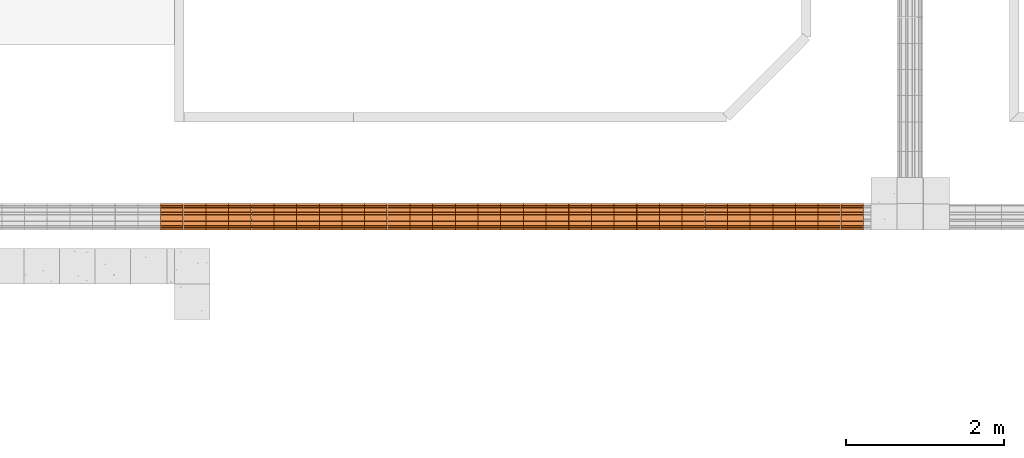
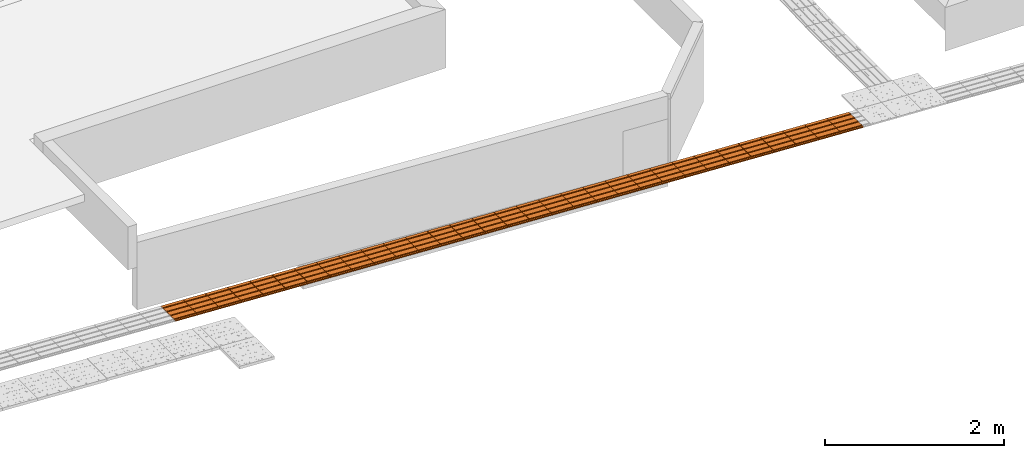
# One storey, part 191 of 237: 31 proxies.
"""IFC2X3 building model written with IfcOpenShell, lengths in millimetres."""

from ifc_helpers import new_model, entity, si_unit, converted_unit, derived_unit, money_unit, direction, frame, origin_with_axes, place, context, subcontext, project, spatial, open_shell, surface_model, source, transform, mapped, type_object, element, save


model = new_model("IFC2X3")

# Units and contexts
model_context = context("Model", 3, precision=0.01, world=origin_with_axes(), true_north=direction((0.0, 1.0)))
body_context = subcontext(model_context, "Body", "Model", "MODEL_VIEW")
ifc_project = project(units=[si_unit("LENGTHUNIT", "METRE", prefix="MILLI"), si_unit("AREAUNIT", "SQUARE_METRE"), si_unit("VOLUMEUNIT", "CUBIC_METRE"), converted_unit("PLANEANGLEUNIT", "DEGREE", entity("IfcPlaneAngleMeasure", 0.0174532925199), si_unit("PLANEANGLEUNIT", "RADIAN"), dimensions=[0, 0, 0, 0, 0, 0, 0]), money_unit("USD"), converted_unit("TIMEUNIT", "Year", entity("IfcTimeMeasure", 31556926.0), si_unit("TIMEUNIT", "SECOND"), dimensions=[0, 0, 1, 0, 0, 0, 0]), si_unit("MASSUNIT", "GRAM", prefix="KILO"), si_unit("THERMODYNAMICTEMPERATUREUNIT", "DEGREE_CELSIUS"), si_unit("LUMINOUSINTENSITYUNIT", "LUMEN"), si_unit("ENERGYUNIT", "JOULE", prefix="MEGA"), derived_unit("THERMALCONDUCTANCEUNIT", [(si_unit("POWERUNIT", "WATT"), 1), (si_unit("LENGTHUNIT", "METRE"), -1), (si_unit("THERMODYNAMICTEMPERATUREUNIT", "KELVIN"), -1)]), derived_unit("SPECIFICHEATCAPACITYUNIT", [(si_unit("ENERGYUNIT", "JOULE"), 1), (si_unit("MASSUNIT", "GRAM", prefix="KILO"), -1), (si_unit("THERMODYNAMICTEMPERATUREUNIT", "KELVIN"), -1)]), derived_unit("MASSDENSITYUNIT", [(si_unit("MASSUNIT", "GRAM", prefix="KILO"), 1), (si_unit("VOLUMEUNIT", "CUBIC_METRE"), -1)])], contexts=[model_context])

# Site, building, storey
site_placement = place(None, origin_with_axes())
site = spatial("IfcSite", under=ifc_project, at=site_placement, Name="Local", CompositionType="ELEMENT")
building_placement = place(site_placement, origin_with_axes())
building = spatial("IfcBuilding", under=site, at=building_placement, Name="Construção", CompositionType="ELEMENT")
storey_placement = place(building_placement, origin_with_axes())
storey = spatial("IfcBuildingStorey", under=building, at=storey_placement, Name="Pavimento Térreo", CompositionType="ELEMENT", Elevation=0.0)

# Proxies
building_element_proxy_type = type_object("IfcBuildingElementProxyType", Name="Piso Direcional 27", PredefinedType="NOTDEFINED")
shared_shape = source(origin_with_axes(), body_context, "Body", "SurfaceModel", [
    surface_model("IfcShellBasedSurfaceModel", [(-0.210134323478, -47.258225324, 4.02303628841), (285.108160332, -47.258225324, 18.9260007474), (284.760415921, -41.665004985, 25.5835917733), (-0.557878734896, -41.665004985, 10.6806273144)], [open_shell([[[0, 1, 2, 3]]])]),
    surface_model("IfcShellBasedSurfaceModel", [(285.803649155, -153.529411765, 5.61081869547), (285.803649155, 176.470588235, 5.61081869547), (285.108160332, 176.470588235, 18.9260007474), (285.108160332, 154.097706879, 18.9260007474), (284.760415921, 148.50448654, 25.5835917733), (284.760415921, 126.131605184, 25.5835917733), (285.108160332, 120.538384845, 18.9260007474), (285.108160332, 70.1994017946, 18.9260007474), (284.760415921, 64.6061814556, 25.5835917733), (284.760415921, 42.2333000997, 25.5835917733), (285.108160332, 36.6400797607, 18.9260007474), (285.108160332, -13.6989032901, 18.9260007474), (284.760415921, -19.2921236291, 25.5835917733), (284.760415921, -41.665004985, 25.5835917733), (285.108160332, -47.258225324, 18.9260007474), (285.108160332, -97.5972083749, 18.9260007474), (284.760415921, -103.190428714, 25.5835917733), (284.760415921, -125.56331007, 25.5835917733), (285.108160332, -131.156530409, 18.9260007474), (285.108160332, -153.529411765, 18.9260007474)], [open_shell([[[0, 1, 2, 3, 4, 5, 6, 7, 8, 9, 10, 11, 12, 13, 14, 15, 16, 17, 18, 19]]])]),
    surface_model("IfcShellBasedSurfaceModel", [(-0.557878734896, -19.2921236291, 10.6806273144), (284.760415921, -19.2921236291, 25.5835917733), (285.108160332, -13.6989032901, 18.9260007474), (-0.210134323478, -13.6989032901, 4.02303628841)], [open_shell([[[0, 1, 2, 3]]])]),
    surface_model("IfcShellBasedSurfaceModel", [(-0.557878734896, -103.190428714, 10.6806273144), (284.760415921, -103.190428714, 25.5835917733), (285.108160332, -97.5972083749, 18.9260007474), (-0.210134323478, -97.5972083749, 4.02303628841)], [open_shell([[[0, 1, 2, 3]]])]),
    surface_model("IfcShellBasedSurfaceModel", [(-0.557878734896, 64.6061814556, 10.6806273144), (284.760415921, 64.6061814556, 25.5835917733), (285.108160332, 70.1994017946, 18.9260007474), (-0.210134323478, 70.1994017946, 4.02303628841)], [open_shell([[[0, 1, 2, 3]]])]),
    surface_model("IfcShellBasedSurfaceModel", [(-0.210134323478, 36.6400797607, 4.02303628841), (285.108160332, 36.6400797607, 18.9260007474), (284.760415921, 42.2333000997, 25.5835917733), (-0.557878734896, 42.2333000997, 10.6806273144)], [open_shell([[[0, 1, 2, 3]]])]),
    surface_model("IfcShellBasedSurfaceModel", [(-0.210134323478, -131.156530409, 4.02303628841), (285.108160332, -131.156530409, 18.9260007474), (284.760415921, -125.56331007, 25.5835917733), (-0.557878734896, -125.56331007, 10.6806273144)], [open_shell([[[0, 1, 2, 3]]])]),
    surface_model("IfcShellBasedSurfaceModel", [(-0.210134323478, 176.470588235, 4.02303628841), (-0.210134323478, 154.097706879, 4.02303628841), (285.108160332, 154.097706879, 18.9260007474), (285.108160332, 176.470588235, 18.9260007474)], [open_shell([[[0, 1, 2, 3]]])]),
    surface_model("IfcShellBasedSurfaceModel", [(-0.210134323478, 120.538384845, 4.02303628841), (285.108160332, 120.538384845, 18.9260007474), (284.760415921, 126.131605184, 25.5835917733), (-0.557878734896, 126.131605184, 10.6806273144)], [open_shell([[[0, 1, 2, 3]]])]),
    surface_model("IfcShellBasedSurfaceModel", [(-0.557878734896, 148.50448654, 10.6806273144), (284.760415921, 148.50448654, 25.5835917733), (285.108160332, 154.097706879, 18.9260007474), (-0.210134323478, 154.097706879, 4.02303628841)], [open_shell([[[0, 1, 2, 3]]])]),
    surface_model("IfcShellBasedSurfaceModel", [(-0.210134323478, 36.6400797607, 4.02303628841), (-0.210134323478, -13.6989032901, 4.02303628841), (285.108160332, -13.6989032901, 18.9260007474), (285.108160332, 36.6400797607, 18.9260007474)], [open_shell([[[0, 1, 2, 3]]])]),
    surface_model("IfcShellBasedSurfaceModel", [(-0.210134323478, 120.538384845, 4.02303628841), (-0.210134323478, 70.1994017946, 4.02303628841), (285.108160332, 70.1994017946, 18.9260007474), (285.108160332, 120.538384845, 18.9260007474)], [open_shell([[[0, 1, 2, 3]]])]),
    surface_model("IfcShellBasedSurfaceModel", [(-0.557878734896, 148.50448654, 10.6806273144), (-0.557878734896, 126.131605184, 10.6806273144), (284.760415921, 126.131605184, 25.5835917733), (284.760415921, 148.50448654, 25.5835917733)], [open_shell([[[0, 1, 2, 3]]])]),
    surface_model("IfcShellBasedSurfaceModel", [(-0.210134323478, 120.538384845, 4.02303628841), (-0.557878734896, 126.131605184, 10.6806273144), (-0.557878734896, 148.50448654, 10.6806273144), (-0.210134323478, 154.097706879, 4.02303628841), (-0.210134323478, 176.470588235, 4.02303628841), (0.48535449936, 176.470588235, -9.29214576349), (0.48535449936, -153.529411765, -9.29214576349), (-0.210134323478, -153.529411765, 4.02303628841), (-0.210134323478, -131.156530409, 4.02303628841), (-0.557878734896, -125.56331007, 10.6806273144), (-0.557878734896, -103.190428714, 10.6806273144), (-0.210134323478, -97.5972083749, 4.02303628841), (-0.210134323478, -47.258225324, 4.02303628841), (-0.557878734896, -41.665004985, 10.6806273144), (-0.557878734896, -19.2921236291, 10.6806273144), (-0.210134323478, -13.6989032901, 4.02303628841), (-0.210134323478, 36.6400797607, 4.02303628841), (-0.557878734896, 42.2333000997, 10.6806273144), (-0.557878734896, 64.6061814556, 10.6806273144), (-0.210134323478, 70.1994017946, 4.02303628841)], [open_shell([[[0, 1, 2, 3, 4, 5, 6, 7, 8, 9, 10, 11, 12, 13, 14, 15, 16, 17, 18, 19]]])]),
    surface_model("IfcShellBasedSurfaceModel", [(284.760415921, -41.665004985, 25.5835917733), (284.760415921, -19.2921236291, 25.5835917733), (-0.557878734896, -19.2921236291, 10.6806273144), (-0.557878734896, -41.665004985, 10.6806273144)], [open_shell([[[0, 1, 2, 3]]])]),
    surface_model("IfcShellBasedSurfaceModel", [(-0.210134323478, -47.258225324, 4.02303628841), (-0.210134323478, -97.5972083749, 4.02303628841), (285.108160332, -97.5972083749, 18.9260007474), (285.108160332, -47.258225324, 18.9260007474)], [open_shell([[[0, 1, 2, 3]]])]),
    surface_model("IfcShellBasedSurfaceModel", [(284.760415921, 42.2333000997, 25.5835917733), (284.760415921, 64.6061814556, 25.5835917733), (-0.557878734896, 64.6061814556, 10.6806273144), (-0.557878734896, 42.2333000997, 10.6806273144)], [open_shell([[[0, 1, 2, 3]]])]),
    surface_model("IfcShellBasedSurfaceModel", [(284.760415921, -125.56331007, 25.5835917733), (284.760415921, -103.190428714, 25.5835917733), (-0.557878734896, -103.190428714, 10.6806273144), (-0.557878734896, -125.56331007, 10.6806273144)], [open_shell([[[0, 1, 2, 3]]])]),
    surface_model("IfcShellBasedSurfaceModel", [(285.803649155, 176.470588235, 5.61081869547), (0.48535449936, 176.470588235, -9.29214576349), (-0.210134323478, 176.470588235, 4.02303628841), (285.108160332, 176.470588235, 18.9260007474)], [open_shell([[[0, 1, 2, 3]]])]),
    surface_model("IfcShellBasedSurfaceModel", [(285.803649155, -153.529411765, 5.61081869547), (0.48535449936, -153.529411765, -9.29214576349), (0.48535449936, 176.470588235, -9.29214576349), (285.803649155, 176.470588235, 5.61081869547)], [open_shell([[[0, 1, 2, 3]]])]),
    surface_model("IfcShellBasedSurfaceModel", [(285.108160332, -153.529411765, 18.9260007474), (285.108160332, -131.156530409, 18.9260007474), (-0.210134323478, -131.156530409, 4.02303628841), (-0.210134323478, -153.529411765, 4.02303628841)], [open_shell([[[0, 1, 2, 3]]])]),
    surface_model("IfcShellBasedSurfaceModel", [(0.48535449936, -153.529411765, -9.29214576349), (285.803649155, -153.529411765, 5.61081869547), (285.108160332, -153.529411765, 18.9260007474), (-0.210134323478, -153.529411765, 4.02303628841)], [open_shell([[[0, 1, 2, 3]]])]),
])
for number, where, z_axis, x_axis, name in (
    (1, (131331.153892, 10834.0941893, -7803.9907125), (0.0, 0.0, 1.0), (-1.0, 0.0, 0.0), "Objeto-0055"),
    (2, (134197.199327, 10834.0941893, -7953.69220044), (0.0, 0.0, 1.0), (-1.0, 0.0, 0.0), "Objeto-0055"),
    (3, (133910.594784, 10834.0941893, -7938.72205165), (0.0, 0.0, 1.0), (-1.0, 0.0, 0.0), "Objeto-0055"),
    (4, (133623.99024, 10834.0941893, -7923.75190285), (0.0, 0.0, 1.0), (-1.0, 0.0, 0.0), "Objeto-0055"),
    (5, (133337.385697, 10834.0941893, -7908.78175406), (0.0, 0.0, 1.0), (-1.0, 0.0, 0.0), "Objeto-0055"),
    (6, (133050.781153, 10834.0941893, -7893.81160526), (0.0, 0.0, 1.0), (-1.0, 0.0, 0.0), "Objeto-0055"),
    (7, (132764.17661, 10834.0941893, -7878.84145647), (0.0, 0.0, 1.0), (-1.0, 0.0, 0.0), "Objeto-0055"),
    (8, (132477.572066, 10834.0941893, -7863.87130767), (0.0, 0.0, 1.0), (-1.0, 0.0, 0.0), "Objeto-0055"),
    (9, (132190.967523, 10834.0941893, -7848.90115888), (0.0, 0.0, 1.0), (-1.0, 0.0, 0.0), "Objeto-0055"),
    (10, (131904.362979, 10834.0941893, -7833.93101008), (0.0, 0.0, 1.0), (-1.0, 0.0, 0.0), "Objeto-0055"),
    (11, (131617.758436, 10834.0941893, -7818.96086129), (0.0, 0.0, 1.0), (-1.0, 0.0, 0.0), "Objeto-0055"),
    (12, (131044.549349, 10834.0941893, -7789.0205637), (0.0, 0.0, 1.0), (-1.0, 0.0, 0.0), "Objeto-0055"),
    (13, (130757.944806, 10834.0941893, -7774.05041491), (0.0, 0.0, 1.0), (-1.0, 0.0, 0.0), "Objeto-0055"),
    (14, (129898.131175, 10834.0941893, -7729.13996852), (0.0, 0.0, 1.0), (-1.0, 0.0, 0.0), "Objeto-0055"),
    (15, (130471.340262, 10834.0941893, -7759.08026611), (0.0, 0.0, 1.0), (-1.0, 0.0, 0.0), "Objeto-0055"),
    (16, (130184.735719, 10834.0941893, -7744.11011732), (0.0, 0.0, 1.0), (-1.0, 0.0, 0.0), "Objeto-0055"),
    (17, (129611.526632, 10834.0941893, -7714.16981973), (0.0, 0.0, 1.0), (-1.0, 0.0, 0.0), "Objeto-0055"),
    (18, (129324.922088, 10834.0941893, -7699.19967093), (0.0, 0.0, 1.0), (-1.0, 0.0, 0.0), "Objeto-0055"),
    (19, (129038.317545, 10834.0941893, -7684.22952214), (0.0, 0.0, 1.0), (-1.0, 0.0, 0.0), "Objeto-0055"),
    (20, (128751.713001, 10834.0941893, -7669.25937334), (0.0, 0.0, 1.0), (-1.0, 0.0, 0.0), "Objeto-0055"),
    (21, (128466.394707, 10834.0941893, -7654.35640889), (0.0, 0.0, 1.0), (-1.0, 0.0, 0.0), "Objeto-0055"),
    (22, (128179.790163, 10834.0941893, -7639.38626009), (0.0, 0.0, 1.0), (-1.0, 0.0, 0.0), "Objeto-0055"),
    (23, (127893.18562, 10834.0941893, -7624.4161113), (0.0, 0.0, 1.0), (-1.0, 0.0, 0.0), "Objeto-0055"),
    (24, (127606.581076, 10834.0941893, -7609.4459625), (0.0, 0.0, 1.0), (-1.0, 0.0, 0.0), "Objeto-0055"),
    (25, (127319.976533, 10834.0941893, -7594.47581371), (0.0, 0.0, 1.0), (-1.0, 0.0, 0.0), "Objeto-0055"),
    (26, (127033.37199, 10834.0941893, -7579.50566491), (0.0, 0.0, 1.0), (-1.0, 0.0, 0.0), "Objeto-0055"),
    (27, (126746.767446, 10834.0941893, -7564.53551612), (0.0, 0.0, 1.0), (-1.0, 0.0, 0.0), "Objeto-0055"),
    (28, (126460.162903, 10834.0941893, -7549.56536732), (0.0, 0.0, 1.0), (-1.0, 0.0, 0.0), "Objeto-0055"),
    (29, (126173.558359, 10834.0941893, -7534.59521853), (0.0, 0.0, 1.0), (-1.0, 0.0, 0.0), "Objeto-0055"),
    (30, (134482.517622, 10834.0941893, -7968.5951649), (0.0, 0.0, 1.0), (-1.0, 0.0, 0.0), "Objeto-0055"),
    (31, (134769.231468, 10834.0941893, -7982.66088012), (0.0, 0.0, 1.0), (-1.0, 0.0, 0.0), "Objeto-0055"),
):
    element("IfcBuildingElementProxy", number, at=place(storey_placement, frame(where, z_axis=z_axis, x_axis=x_axis)), inside=storey, type_object=building_element_proxy_type, Name=name, context=body_context, shape_type="MappedRepresentation", body=[
        mapped(shared_shape, transform((0.0, 0.0, 0.0))),
    ])

save(model, "model.ifc")
